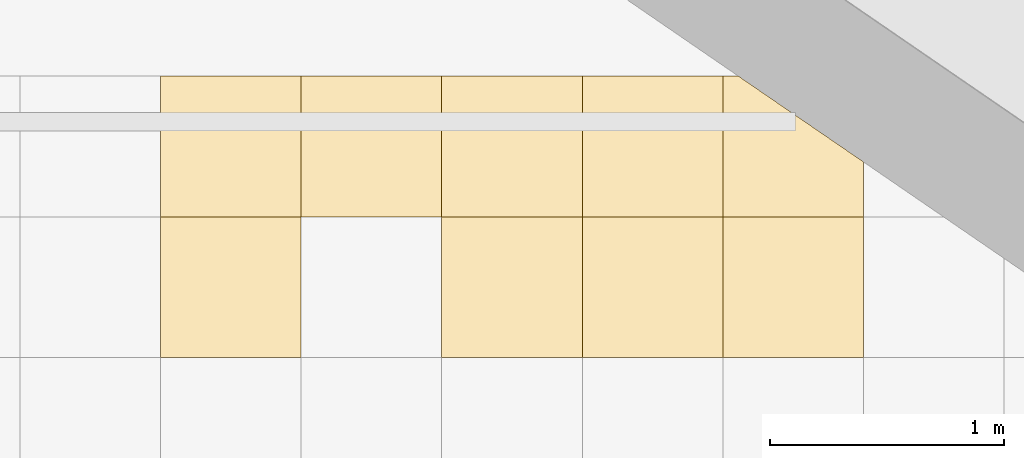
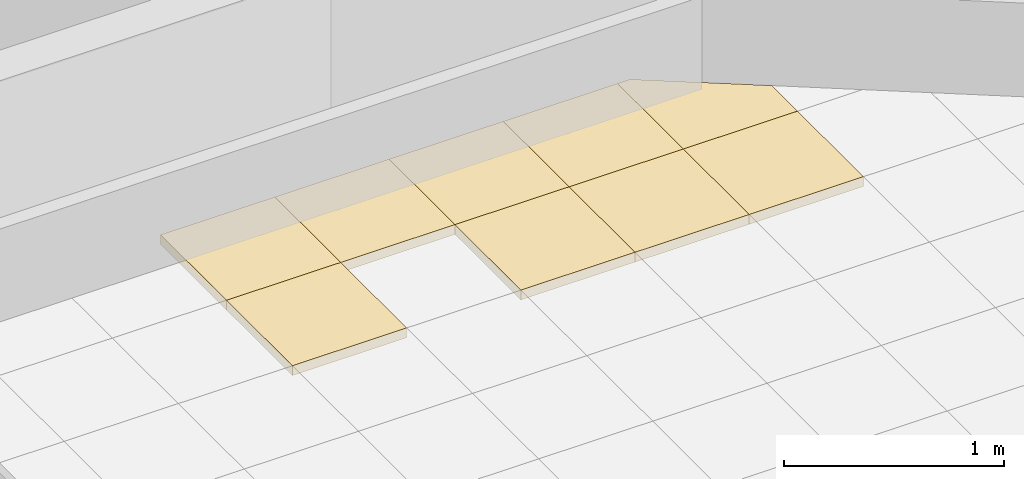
# One storey, part 76 of 79: 9 coverings.
"""IFC2X3 building model written with IfcOpenShell, lengths in millimetres."""

from ifc_helpers import new_model, entity, si_unit, converted_unit, derived_unit, money_unit, direction, frame, origin_with_axes, place, context, subcontext, project, spatial, faceted_brep, material, material_list, type_object, element, save


model = new_model("IFC2X3")

# Units and contexts
model_context = context("Model", 3, precision=0.01, world=origin_with_axes(), true_north=direction((0.0, 1.0)))
body_context = subcontext(model_context, "Body", "Model", "MODEL_VIEW")
ifc_project = project(units=[si_unit("LENGTHUNIT", "METRE", prefix="MILLI"), si_unit("AREAUNIT", "SQUARE_METRE"), si_unit("VOLUMEUNIT", "CUBIC_METRE"), converted_unit("PLANEANGLEUNIT", "DEGREE", entity("IfcPlaneAngleMeasure", 0.0174532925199), si_unit("PLANEANGLEUNIT", "RADIAN"), dimensions=[0, 0, 0, 0, 0, 0, 0]), si_unit("SOLIDANGLEUNIT", "STERADIAN"), money_unit("EUR"), converted_unit("TIMEUNIT", "Year", entity("IfcTimeMeasure", 31556926.0), si_unit("TIMEUNIT", "SECOND"), dimensions=[0, 0, 1, 0, 0, 0, 0]), si_unit("MASSUNIT", "GRAM", prefix="KILO"), si_unit("THERMODYNAMICTEMPERATUREUNIT", "DEGREE_CELSIUS"), si_unit("LUMINOUSINTENSITYUNIT", "LUMEN"), si_unit("ENERGYUNIT", "JOULE", prefix="MEGA"), derived_unit("THERMALCONDUCTANCEUNIT", [(si_unit("POWERUNIT", "WATT"), 1), (si_unit("LENGTHUNIT", "METRE"), -1), (si_unit("THERMODYNAMICTEMPERATUREUNIT", "KELVIN"), -1)]), derived_unit("SPECIFICHEATCAPACITYUNIT", [(si_unit("ENERGYUNIT", "JOULE"), 1), (si_unit("MASSUNIT", "GRAM", prefix="KILO"), -1), (si_unit("THERMODYNAMICTEMPERATUREUNIT", "KELVIN"), -1)]), derived_unit("MASSDENSITYUNIT", [(si_unit("MASSUNIT", "GRAM", prefix="KILO"), 1), (si_unit("VOLUMEUNIT", "CUBIC_METRE"), -1)])], contexts=[model_context])

# Site, building, storey
site_placement = place(None, origin_with_axes())
site = spatial("IfcSite", under=ifc_project, at=site_placement, Name="L.Koidula tn 11b", CompositionType="ELEMENT")
building_placement = place(site_placement, origin_with_axes())
building = spatial("IfcBuilding", under=site, at=building_placement, Name="Rakvere Riigigümnaasium", CompositionType="ELEMENT")
storey_placement = place(building_placement, frame((0.0, 0.0, 3720.0), z_axis=(0.0, 0.0, 1.0), x_axis=(1.0, 0.0, 0.0)))
storey = spatial("IfcBuildingStorey", under=building, at=storey_placement, Name="2.korrus +3,72", CompositionType="ELEMENT", Elevation=3720.0)

# Coverings
ifc_material_1 = material(Name="Karkass")
ifc_material_2 = material(Name="Kipsplaat")
ifc_material_list = material_list([ifc_material_1, ifc_material_2])
covering_type = type_object("IfcCoveringType", Name="SA-LV-Kips-moodul 55", PredefinedType="CEILING")
covering_1_placement = place(storey_placement, frame((92909.8850351, 12290.4535941, 2750.0), z_axis=(0.0, 0.0, 1.0), x_axis=(1.0, 0.0, 0.0)))
element("IfcCovering", 1, at=covering_1_placement, inside=storey, type_object=covering_type, material=ifc_material_list, Name="L-03", PredefinedType="CEILING", context=body_context, shape_type="Brep", body=[
    faceted_brep([(-600.0, 0.0, 12.5), (-600.0, 0.0, 54.5), (0.0, 0.0, 54.5), (0.0, 0.0, 12.5), (-600.0, -600.0, 12.5), (-600.0, -600.0, 54.5), (0.0, -600.0, 54.5), (0.0, -600.0, 12.5)], [[[0, 1, 2, 3]], [[4, 5, 1, 0]], [[2, 1, 5, 6]], [[3, 2, 6, 7]], [[3, 7, 4, 0]], [[7, 6, 5, 4]]]),
    faceted_brep([(0.0, 0.0, 0.0), (-600.0, 0.0, 0.0), (-600.0, 0.0, 12.5), (0.0, 0.0, 12.5), (0.0, -600.0, 0.0), (-600.0, -600.0, 0.0), (-600.0, -600.0, 12.5), (0.0, -600.0, 12.5)], [[[0, 1, 2, 3]], [[0, 4, 5, 1]], [[1, 5, 6, 2]], [[3, 2, 6, 7]], [[4, 0, 3, 7]], [[5, 4, 7, 6]]]),
])
covering_2_placement = place(storey_placement, frame((92309.8850351, 11090.4535941, 2750.0), z_axis=(0.0, 0.0, 1.0), x_axis=(1.0, 0.0, 0.0)))
element("IfcCovering", 2, at=covering_2_placement, inside=storey, type_object=covering_type, material=ifc_material_list, Name="L-03", PredefinedType="CEILING", context=body_context, shape_type="Brep", body=[
    faceted_brep([(600.0, 0.0, 12.5), (600.0, 0.0, 54.5), (0.0, 0.0, 54.5), (0.0, 0.0, 12.5), (600.0, 600.0, 12.5), (600.0, 600.0, 54.5), (0.0, 600.0, 54.5), (0.0, 600.0, 12.5)], [[[0, 1, 2, 3]], [[4, 5, 1, 0]], [[2, 1, 5, 6]], [[3, 2, 6, 7]], [[3, 7, 4, 0]], [[7, 6, 5, 4]]]),
    faceted_brep([(0.0, 0.0, 0.0), (600.0, 0.0, 0.0), (600.0, 0.0, 12.5), (0.0, 0.0, 12.5), (0.0, 600.0, 0.0), (600.0, 600.0, 0.0), (600.0, 600.0, 12.5), (0.0, 600.0, 12.5)], [[[0, 1, 2, 3]], [[0, 4, 5, 1]], [[1, 5, 6, 2]], [[3, 2, 6, 7]], [[4, 0, 3, 7]], [[5, 4, 7, 6]]]),
])
for number, where, z_axis, x_axis, name in (
    (3, (91709.8850867, 11690.4535941, 2750.0), (0.0, 0.0, 1.0), (1.0, 0.0, 0.0), "L-03"),
    (4, (91709.8850867, 11090.4535941, 2750.0), (0.0, 0.0, 1.0), (1.0, 0.0, 0.0), "L-03"),
):
    element("IfcCovering", number, at=place(storey_placement, frame(where, z_axis=z_axis, x_axis=x_axis)), inside=storey, type_object=covering_type, material=ifc_material_list, Name=name, PredefinedType="CEILING", context=body_context, shape_type="Brep", body=[
        faceted_brep([(599.999948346, 0.0, 12.5), (599.999948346, 0.0, 54.5), (0.0, 0.0, 54.5), (0.0, 0.0, 12.5), (599.999948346, 600.0, 12.5), (599.999948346, 600.0, 54.5), (0.0, 600.0, 54.5), (0.0, 600.0, 12.5)], [[[0, 1, 2, 3]], [[4, 5, 1, 0]], [[2, 1, 5, 6]], [[3, 2, 6, 7]], [[3, 7, 4, 0]], [[7, 6, 5, 4]]]),
        faceted_brep([(0.0, 0.0, 0.0), (599.999948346, 0.0, 0.0), (599.999948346, 0.0, 12.5), (0.0, 0.0, 12.5), (0.0, 600.0, 0.0), (599.999948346, 600.0, 0.0), (599.999948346, 600.0, 12.5), (0.0, 600.0, 12.5)], [[[0, 1, 2, 3]], [[0, 4, 5, 1]], [[1, 5, 6, 2]], [[3, 2, 6, 7]], [[4, 0, 3, 7]], [[5, 4, 7, 6]]]),
    ])
covering_3_placement = place(storey_placement, frame((91109.8850867, 11690.4535941, 2750.0), z_axis=(0.0, 0.0, 1.0), x_axis=(1.0, 0.0, 0.0)))
element("IfcCovering", 5, at=covering_3_placement, inside=storey, type_object=covering_type, material=ifc_material_list, Name="L-03", PredefinedType="CEILING", context=body_context, shape_type="Brep", body=[
    faceted_brep([(600.0, 0.0, 12.5), (600.0, 0.0, 54.5), (0.0, 0.0, 54.5), (0.0, 0.0, 12.5), (600.0, 600.0, 12.5), (600.0, 600.0, 54.5), (0.0, 600.0, 54.5), (0.0, 600.0, 12.5)], [[[0, 1, 2, 3]], [[4, 5, 1, 0]], [[2, 1, 5, 6]], [[3, 2, 6, 7]], [[3, 7, 4, 0]], [[7, 6, 5, 4]]]),
    faceted_brep([(0.0, 0.0, 0.0), (600.0, 0.0, 0.0), (600.0, 0.0, 12.5), (0.0, 0.0, 12.5), (0.0, 600.0, 0.0), (600.0, 600.0, 0.0), (600.0, 600.0, 12.5), (0.0, 600.0, 12.5)], [[[0, 1, 2, 3]], [[0, 4, 5, 1]], [[1, 5, 6, 2]], [[3, 2, 6, 7]], [[4, 0, 3, 7]], [[5, 4, 7, 6]]]),
])
covering_4_placement = place(storey_placement, frame((92909.8850351, 11690.4535941, 2750.0), z_axis=(0.0, 0.0, 1.0), x_axis=(1.0, 0.0, 0.0)))
element("IfcCovering", 6, at=covering_4_placement, inside=storey, type_object=covering_type, material=ifc_material_list, Name="L-03", PredefinedType="CEILING", context=body_context, shape_type="Brep", body=[
    faceted_brep([(599.999948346, 0.0, 12.5), (599.999948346, 0.0, 54.5), (0.0, 0.0, 54.5), (0.0, 0.0, 12.5), (599.999948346, 234.445491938, 12.5), (599.999948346, 234.445491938, 54.5), (67.0264483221, 600.0, 54.5), (0.0, 600.0, 54.5), (0.0, 600.0, 12.5), (67.0264483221, 600.0, 12.5)], [[[0, 1, 2, 3]], [[4, 5, 1, 0]], [[2, 1, 5, 6, 7]], [[3, 2, 7, 8]], [[3, 8, 9, 4, 0]], [[9, 6, 5, 4]], [[8, 7, 6, 9]]]),
    faceted_brep([(0.0, 0.0, 0.0), (599.999948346, 0.0, 0.0), (599.999948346, 0.0, 12.5), (0.0, 0.0, 12.5), (0.0, 600.0, 0.0), (67.0264483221, 600.0, 0.0), (599.999948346, 234.445491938, 0.0), (599.999948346, 234.445491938, 12.5), (67.0264483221, 600.0, 12.5), (0.0, 600.0, 12.5)], [[[0, 1, 2, 3]], [[0, 4, 5, 6, 1]], [[1, 6, 7, 2]], [[3, 2, 7, 8, 9]], [[4, 0, 3, 9]], [[5, 4, 9, 8]], [[6, 5, 8, 7]]]),
])
for number, where, z_axis, x_axis, name in (
    (7, (92909.8850351, 11090.4535941, 2750.0), (0.0, 0.0, 1.0), (1.0, 0.0, 0.0), "L-03"),
    (8, (90509.8851384, 11090.4535941, 2750.0), (0.0, 0.0, 1.0), (1.0, 0.0, 0.0), "L-03"),
    (9, (90509.8851384, 11690.4535941, 2750.0), (0.0, 0.0, 1.0), (1.0, 0.0, 0.0), "L-03"),
):
    element("IfcCovering", number, at=place(storey_placement, frame(where, z_axis=z_axis, x_axis=x_axis)), inside=storey, type_object=covering_type, material=ifc_material_list, Name=name, PredefinedType="CEILING", context=body_context, shape_type="Brep", body=[
        faceted_brep([(599.999948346, 0.0, 12.5), (599.999948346, 0.0, 54.5), (0.0, 0.0, 54.5), (0.0, 0.0, 12.5), (599.999948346, 600.0, 12.5), (599.999948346, 600.0, 54.5), (0.0, 600.0, 54.5), (0.0, 600.0, 12.5)], [[[0, 1, 2, 3]], [[4, 5, 1, 0]], [[2, 1, 5, 6]], [[3, 2, 6, 7]], [[3, 7, 4, 0]], [[7, 6, 5, 4]]]),
        faceted_brep([(0.0, 0.0, 0.0), (599.999948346, 0.0, 0.0), (599.999948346, 0.0, 12.5), (0.0, 0.0, 12.5), (0.0, 600.0, 0.0), (599.999948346, 600.0, 0.0), (599.999948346, 600.0, 12.5), (0.0, 600.0, 12.5)], [[[0, 1, 2, 3]], [[0, 4, 5, 1]], [[1, 5, 6, 2]], [[3, 2, 6, 7]], [[4, 0, 3, 7]], [[5, 4, 7, 6]]]),
    ])

save(model, "model.ifc")
